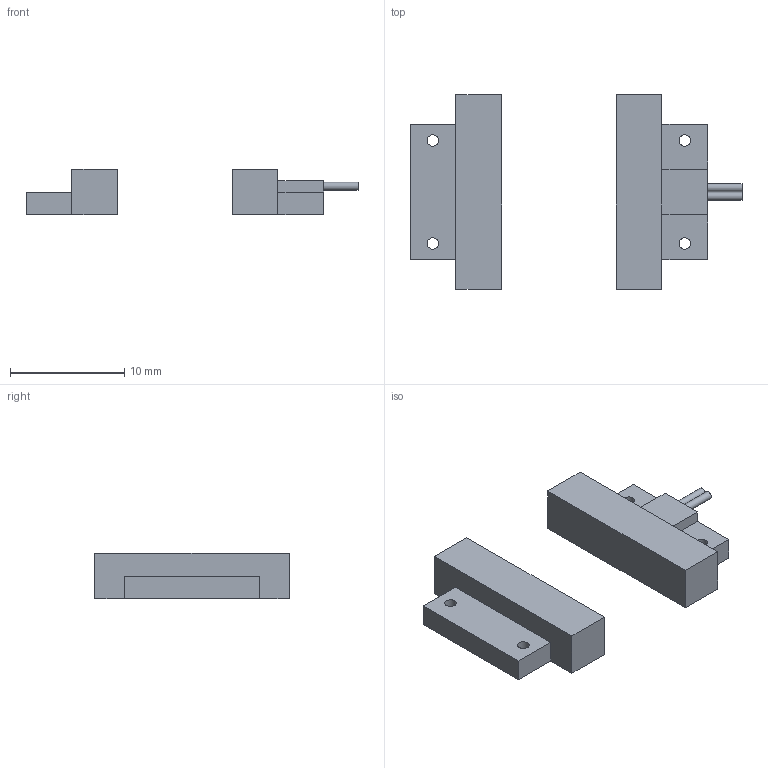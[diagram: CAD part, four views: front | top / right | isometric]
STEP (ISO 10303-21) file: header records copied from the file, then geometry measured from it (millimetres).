
FILE_DESCRIPTION(/* description */ ('Alibre Inc.'),/* implementation_level */ '2;1');
FILE_NAME(/* name */ 'export0',/* time_stamp */ '2013-08-21T10:38:46-06:00',/* author */ (''),/* organization */ (''),/* preprocessor_version */ 'ST-DEVELOPER v14',/* originating_system */ 'Alibre',/* authorisation */ '');
FILE_SCHEMA (('ALIBRE_SCHEMA','CONFIG_CONTROL_DESIGN'));
Length unit declared in the file: centimetre
Products named in the file (1): ID_1
Bounding box: 29 x 17 x 4 mm (x, y, z)
Volume: 744.7 mm3; surface area: 868.5 mm2
Topology: 2 solids, 2 shells, 32 faces, 78 edges, 52 vertices
Faces by surface type: plane 26, cylinder 6
Full cylindrical faces by diameter (mm): 0.683 x2, 1 x4
Entity records: 2543 total; most frequent: CARTESIAN_POINT 325, DIRECTION 217, CONSTRAINTPAIRUV 183, VECTOR 149, ORIENTED_EDGE 144, REFERENCEDEPENDENTUV 138, LINE 106, REFERENCEPOINTUV 104
